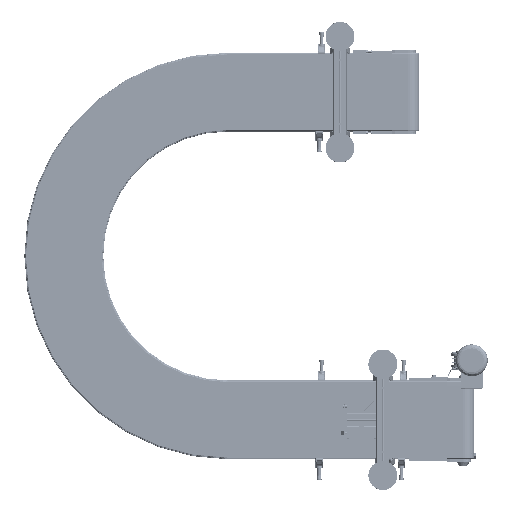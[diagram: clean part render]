
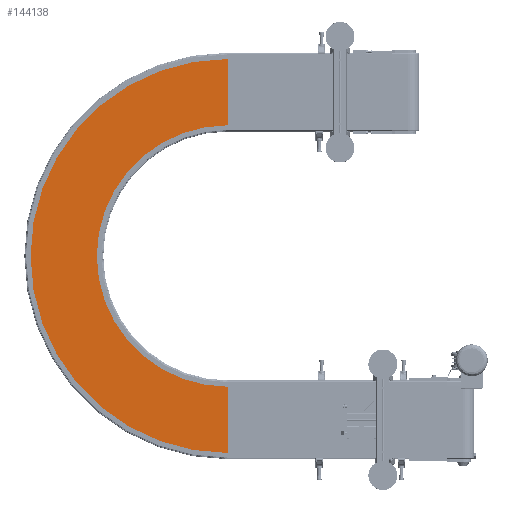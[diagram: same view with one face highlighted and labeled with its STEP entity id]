
A CAD part, front view. The second image highlights one B-rep face of the part: STEP entity #144138.
In plain terms, the highlighted planar face has unit normal (0, -1, 0).
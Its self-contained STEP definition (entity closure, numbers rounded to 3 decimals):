
#3605 = DIRECTION ( 'NONE',  ( 1., 0., 0. ) ) ;
#8752 = VECTOR ( 'NONE', #73022, 1000. ) ;
#9289 = CARTESIAN_POINT ( 'NONE',  ( 1015.7, -77.4, 812. ) ) ;
#15685 = CARTESIAN_POINT ( 'NONE',  ( -114.3, -77.4, 812. ) ) ;
#18808 = VERTEX_POINT ( 'NONE', #71200 ) ;
#20441 = ORIENTED_EDGE ( 'NONE', *, *, #114063, .F. ) ;
#23530 = CARTESIAN_POINT ( 'NONE',  ( 1015.7, -77.4, 812. ) ) ;
#25261 = CIRCLE ( 'NONE', #155160, 450.7 ) ;
#28766 = ORIENTED_EDGE ( 'NONE', *, *, #222586, .T. ) ;
#38975 = FACE_OUTER_BOUND ( 'NONE', #109731, .T. ) ;
#39814 = AXIS2_PLACEMENT_3D ( 'NONE', #9289, #98410, #78141 ) ;
#47877 = VERTEX_POINT ( 'NONE', #60464 ) ;
#60464 = CARTESIAN_POINT ( 'NONE',  ( 1244.3, -77.4, 812. ) ) ;
#63655 = VERTEX_POINT ( 'NONE', #15685 ) ;
#68499 = AXIS2_PLACEMENT_3D ( 'NONE', #95595, #111417, #165560 ) ;
#69676 = LINE ( 'NONE', #88853, #8752 ) ;
#70240 = CARTESIAN_POINT ( 'NONE',  ( 565., -77.4, 812. ) ) ;
#71200 = CARTESIAN_POINT ( 'NONE',  ( 114.3, -77.4, 812. ) ) ;
#72439 = DIRECTION ( 'NONE',  ( 0., -1., 0. ) ) ;
#73022 = DIRECTION ( 'NONE',  ( -1., 0., 0. ) ) ;
#74552 = EDGE_CURVE ( 'NONE', #47877, #169878, #69676, .T. ) ;
#78141 = DIRECTION ( 'NONE',  ( 0., 0., 1. ) ) ;
#79307 = CIRCLE ( 'NONE', #68499, 679.3 ) ;
#88853 = CARTESIAN_POINT ( 'NONE',  ( 1015.7, -77.4, 812. ) ) ;
#95050 = PLANE ( 'NONE',  #39814 ) ;
#95595 = CARTESIAN_POINT ( 'NONE',  ( 565., -77.4, 812. ) ) ;
#98410 = DIRECTION ( 'NONE',  ( 0., 1., 0. ) ) ;
#107755 = LINE ( 'NONE', #160775, #156247 ) ;
#108764 = ORIENTED_EDGE ( 'NONE', *, *, #143631, .T. ) ;
#109731 = EDGE_LOOP ( 'NONE', ( #20441, #124044, #108764, #28766 ) ) ;
#111417 = DIRECTION ( 'NONE',  ( 0., -1., 0. ) ) ;
#114063 = EDGE_CURVE ( 'NONE', #169878, #18808, #25261, .T. ) ;
#124044 = ORIENTED_EDGE ( 'NONE', *, *, #74552, .F. ) ;
#143631 = EDGE_CURVE ( 'NONE', #47877, #63655, #79307, .T. ) ;
#144138 = ADVANCED_FACE ( 'NONE', ( #38975 ), #95050, .F. ) ;
#155160 = AXIS2_PLACEMENT_3D ( 'NONE', #70240, #72439, #3605 ) ;
#156247 = VECTOR ( 'NONE', #210526, 1000. ) ;
#160775 = CARTESIAN_POINT ( 'NONE',  ( 114.3, -77.4, 812. ) ) ;
#165560 = DIRECTION ( 'NONE',  ( 1., 0., 0. ) ) ;
#169878 = VERTEX_POINT ( 'NONE', #23530 ) ;
#210526 = DIRECTION ( 'NONE',  ( 1., 0., 0. ) ) ;
#222586 = EDGE_CURVE ( 'NONE', #63655, #18808, #107755, .T. ) ;
